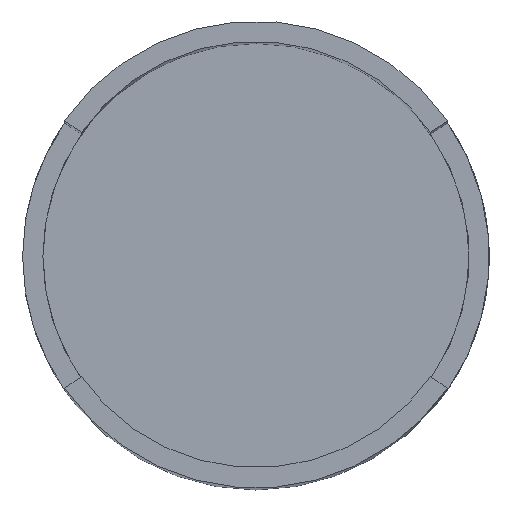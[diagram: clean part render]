
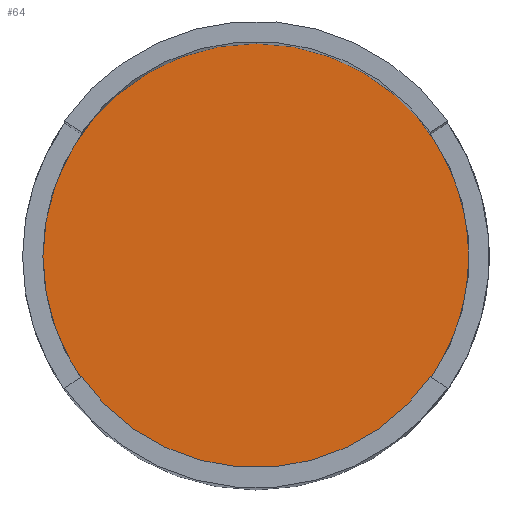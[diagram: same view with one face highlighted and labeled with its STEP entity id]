
A CAD part, top view. The second image highlights one B-rep face of the part: STEP entity #64.
In plain terms, the highlighted planar face has unit normal (0, 0, 1).
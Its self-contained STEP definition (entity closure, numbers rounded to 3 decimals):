
#64=ADVANCED_FACE('',(#147),#149,.T.);
#147=FACE_BOUND('',#148,.T.);
#148=EDGE_LOOP('',(#218));
#149=PLANE('',#150);
#150=AXIS2_PLACEMENT_3D('',#151,#152,#153);
#151=CARTESIAN_POINT('',(0.,0.,2.));
#152=DIRECTION('',(0.,0.,1.));
#153=DIRECTION('',(-1.,0.,0.));
#218=ORIENTED_EDGE('',*,*,#240,.T.);
#240=EDGE_CURVE('',#288,#288,#289,.T.);
#288=VERTEX_POINT('',#387);
#289=CIRCLE('',#388,10.5);
#387=CARTESIAN_POINT('',(-10.5,0.,2.));
#388=AXIS2_PLACEMENT_3D('',#389,#390,#391);
#389=CARTESIAN_POINT('',(0.,0.,2.));
#390=DIRECTION('',(0.,0.,1.));
#391=DIRECTION('',(-1.,0.,0.));
